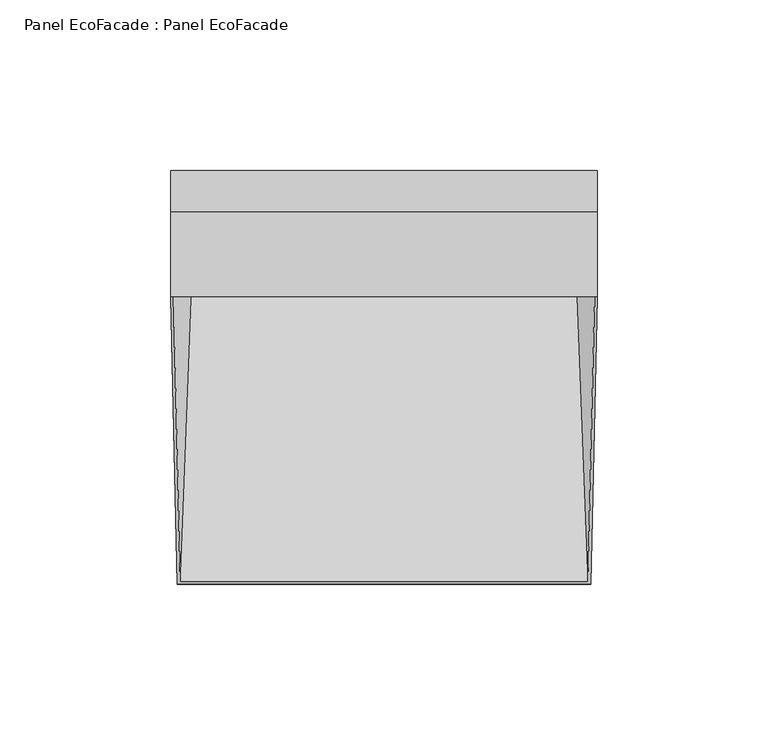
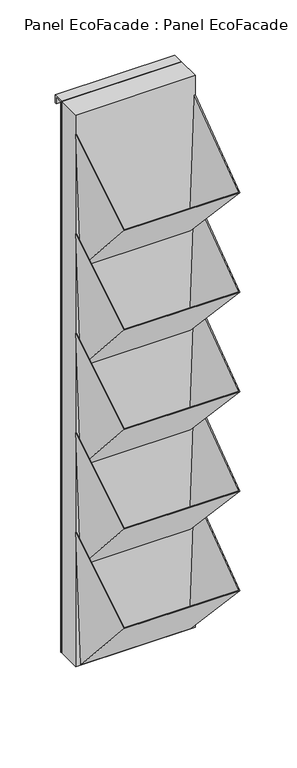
"""IFC4 building model written with IfcOpenShell, lengths in millimetres: plate geometry, Panel EcoFacade : Panel EcoFacade."""

from ifc_helpers import new_model, si_unit, frame, origin, origin_with_axes, place, context, project, spatial, polyline, outline, extrude, faceted_brep, source, transform, mapped, element, save


def panel_ecofacade_panel_ecofacade_a60c9421(model_context):
    return source(origin(), model_context, "Body", "SolidModel", [
        faceted_brep([(-61.6807851, 0.0, 588.5882353), (-56.5333838, 0.0, 441.185948), (56.5333838, 0.0, 441.185948), (61.6807851, 0.0, 588.5882353), (62.4812727, 0.0, 588.5882353), (57.2924572, 0.0, 440.0), (-57.2924572, 0.0, 440.0), (-62.4812727, 0.0, 588.5882353), (-60.5102218, -84.2, 532.1447224), (-59.725466, -83.5279628, 532.5952229), (60.5102218, -84.2, 532.1447224), (59.725466, -83.5279628, 532.5952229)], [[[0, 1, 2, 3, 4, 5, 6, 7]], [[6, 8, 7]], [[1, 0, 9]], [[0, 7, 8, 10, 4, 3, 11, 9]], [[5, 10, 8, 6]], [[1, 9, 11, 2]], [[4, 10, 5]], [[3, 2, 11]]]),
        faceted_brep([(-61.6807851, 0.0, 478.5882353), (-56.5333838, 0.0, 331.185948), (56.5333838, 0.0, 331.185948), (61.6807851, 0.0, 478.5882353), (62.4812727, 0.0, 478.5882353), (57.2924572, 0.0, 330.0), (-57.2924572, 0.0, 330.0), (-62.4812727, 0.0, 478.5882353), (-60.5102218, -84.2, 422.1447224), (-59.725466, -83.5279628, 422.5952229), (60.5102218, -84.2, 422.1447224), (59.725466, -83.5279628, 422.5952229)], [[[0, 1, 2, 3, 4, 5, 6, 7]], [[6, 8, 7]], [[1, 0, 9]], [[0, 7, 8, 10, 4, 3, 11, 9]], [[5, 10, 8, 6]], [[1, 9, 11, 2]], [[4, 10, 5]], [[3, 2, 11]]]),
        faceted_brep([(-61.6807851, 0.0, 368.5882353), (-56.5333838, 0.0, 221.185948), (56.5333838, 0.0, 221.185948), (61.6807851, 0.0, 368.5882353), (62.4812727, 0.0, 368.5882353), (57.2924572, 0.0, 220.0), (-57.2924572, 0.0, 220.0), (-62.4812727, 0.0, 368.5882353), (-60.5102218, -84.2, 312.1447224), (-59.725466, -83.5279628, 312.5952229), (60.5102218, -84.2, 312.1447224), (59.725466, -83.5279628, 312.5952229)], [[[0, 1, 2, 3, 4, 5, 6, 7]], [[6, 8, 7]], [[1, 0, 9]], [[0, 7, 8, 10, 4, 3, 11, 9]], [[5, 10, 8, 6]], [[1, 9, 11, 2]], [[4, 10, 5]], [[3, 2, 11]]]),
        faceted_brep([(-61.6807851, 0.0, 258.5882353), (-56.5333838, 0.0, 111.185948), (56.5333838, 0.0, 111.185948), (61.6807851, 0.0, 258.5882353), (62.4812727, 0.0, 258.5882353), (57.2924572, 0.0, 110.0), (-57.2924572, 0.0, 110.0), (-62.4812727, 0.0, 258.5882353), (-60.5102218, -84.2, 202.1447224), (-59.725466, -83.5279628, 202.5952229), (60.5102218, -84.2, 202.1447224), (59.725466, -83.5279628, 202.5952229)], [[[0, 1, 2, 3, 4, 5, 6, 7]], [[6, 8, 7]], [[1, 0, 9]], [[0, 7, 8, 10, 4, 3, 11, 9]], [[5, 10, 8, 6]], [[1, 9, 11, 2]], [[4, 10, 5]], [[3, 2, 11]]]),
        faceted_brep([(-61.6807851, 0.0, 148.5882353), (-56.5333838, 0.0, 1.185948), (56.5333838, 0.0, 1.185948), (61.6807851, 0.0, 148.5882353), (62.4812727, 0.0, 148.5882353), (57.2924572, 0.0, 0.0), (-57.2924572, 0.0, 0.0), (-62.4812727, 0.0, 148.5882353), (-60.5102218, -84.2, 92.1447224), (-59.725466, -83.5279628, 92.5952229), (60.5102218, -84.2, 92.1447224), (59.725466, -83.5279628, 92.5952229)], [[[0, 1, 2, 3, 4, 5, 6, 7]], [[6, 8, 7]], [[1, 0, 9]], [[0, 7, 8, 10, 4, 3, 11, 9]], [[5, 10, 8, 6]], [[1, 9, 11, 2]], [[4, 10, 5]], [[3, 2, 11]]]),
        extrude(outline(polyline([(26.5, 0.0), (25.0, 0.0), (25.0, 610.0), (37.0, 610.0), (37.0, 601.0), (35.5, 601.0), (35.5, 608.5), (26.5, 608.5), (26.5, 0.0)])), frame((-62.5, 0.0, 0.0), z_axis=(1.0, 0.0, 0.0), x_axis=(0.0, 1.0, 0.0)), (0.0, 0.0, 1.0), 125.0),
        extrude(outline(polyline([(62.5, 25.0), (62.5, 0.0), (-62.5, 0.0), (-62.5, 25.0), (62.5, 25.0)])), origin_with_axes(), (0.0, 0.0, 1.0), 610.0),
    ])


if __name__ == "__main__":
    model = new_model("IFC4")
    model_context = context("Model", 3, world=origin())
    ifc_project = project(units=[si_unit("LENGTHUNIT", "METRE", prefix="MILLI")], contexts=[model_context])
    site = spatial("IfcSite", under=ifc_project)
    building = spatial("IfcBuilding", under=site)
    placement = place(None, origin())
    panel_ecofacade_panel_ecofacade_shape = panel_ecofacade_panel_ecofacade_a60c9421(model_context)
    element("IfcPlate", 1, ObjectType="Panel EcoFacade : Panel EcoFacade", at=placement, inside=building, context=model_context, shape_type="MappedRepresentation", body=[
        mapped(panel_ecofacade_panel_ecofacade_shape, transform((0.0, 0.0, 0.0), x_axis=(1.0, 0.0, 0.0), y_axis=(0.0, 1.0, 0.0), z_axis=(0.0, 0.0, 1.0))),
    ])
    save(model, "model.ifc")
